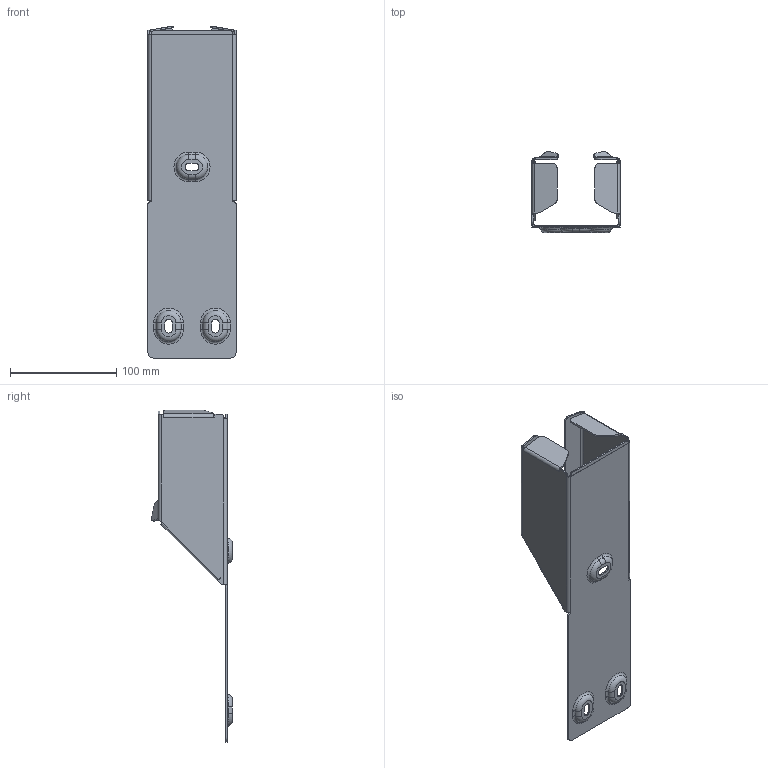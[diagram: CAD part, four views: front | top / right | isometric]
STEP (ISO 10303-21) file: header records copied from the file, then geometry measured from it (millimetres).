
FILE_DESCRIPTION((''),'2;1');
FILE_NAME('2015881','2014-05-09T',('rink'),(''),'PRO/ENGINEER BY PARAMETRIC TECHNOLOGY CORPORATION, 2011040','PRO/ENGINEER BY PARAMETRIC TECHNOLOGY CORPORATION, 2011040','');
FILE_SCHEMA(('AUTOMOTIVE_DESIGN_CC2 { 1 2 10303 214 -1 1 5 2 }'));
Length unit declared in the file: millimetre
Products named in the file (1): 2015881
Bounding box: 83 x 76.26 x 312.67 mm (x, y, z)
Volume: 74410.6 mm3; surface area: 99332.5 mm2
Topology: 2 solids, 2 shells, 248 faces, 644 edges, 442 vertices
Faces by surface type: plane 108, cylinder 80, torus 32, bspline 28
Entity records: 10107 total; most frequent: CARTESIAN_POINT 2128, DIRECTION 1232, ORIENTED_EDGE 1216, PRESENTATION_STYLE_ASSIGNMENT 648, STYLED_ITEM 646, CURVE_STYLE 644, EDGE_CURVE 608, AXIS2_PLACEMENT_3D 425
